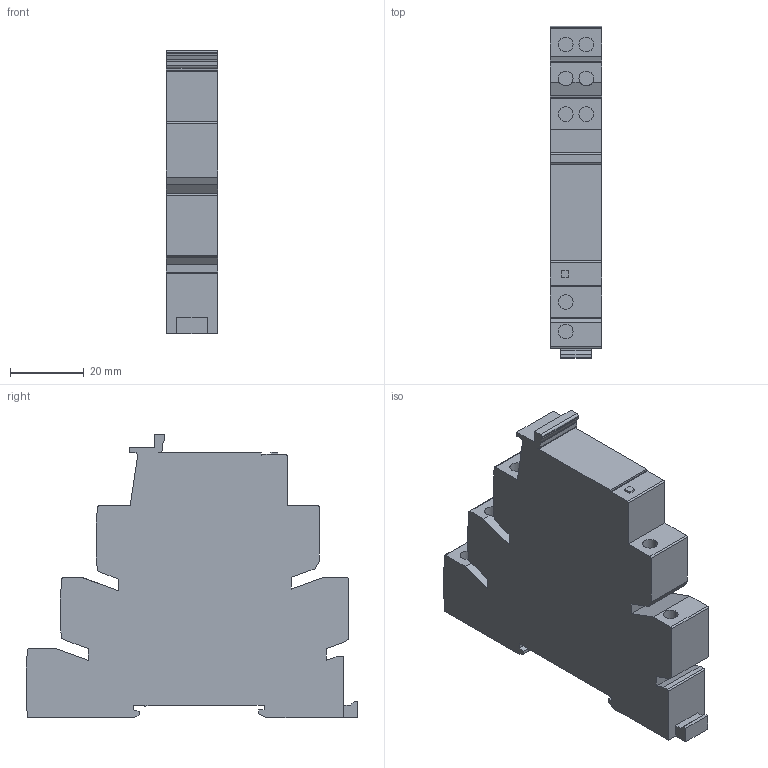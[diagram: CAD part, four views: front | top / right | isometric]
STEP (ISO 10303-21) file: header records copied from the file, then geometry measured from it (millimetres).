
FILE_DESCRIPTION (( 'STEP AP214' ), '1' );
FILE_NAME ('CINT-51.STEP', '2020-09-16T08:31:02', ( '' ), ( '' ), 'SwSTEP 2.0', 'SolidWorks 2016', '' );
FILE_SCHEMA (( 'AUTOMOTIVE_DESIGN' ));
Length unit declared in the file: millimetre
Products named in the file (1): CINT-51
Bounding box: 14 x 90.12 x 77.11 mm (x, y, z)
Volume: 65746.6 mm3; surface area: 15513.8 mm2
Topology: 1 solids, 1 shells, 112 faces, 309 edges, 206 vertices
Faces by surface type: plane 82, cylinder 30
Entity records: 3589 total; most frequent: CARTESIAN_POINT 634, ORIENTED_EDGE 618, DIRECTION 595, EDGE_CURVE 309, VECTOR 245, LINE 245, VERTEX_POINT 206, AXIS2_PLACEMENT_3D 175
